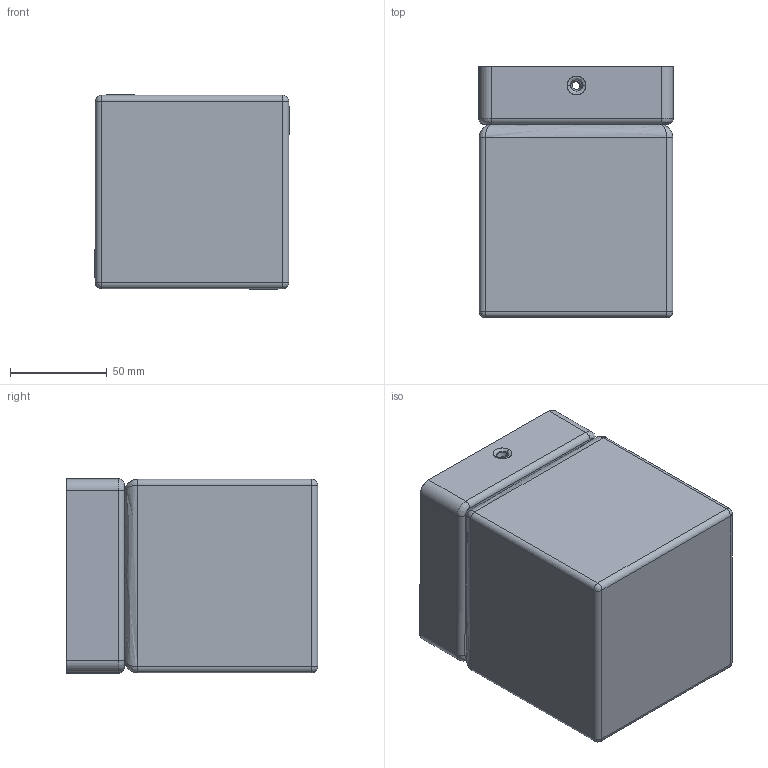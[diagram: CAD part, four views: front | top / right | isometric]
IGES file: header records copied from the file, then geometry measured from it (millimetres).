
Start section: SolidWorks IGES file using analytic representation for surfaces
Global section: file name: Z:\Modele 3D_WWW\_KOLEKCJE_WWW\SIS-9506-8054\SIS-9506-8054.IGS; native system: SolidWorks 2021; preprocessor: SolidWorks 2021; author: gabriela.tworek; date: 210716.101240; units: millimetre
Bounding box: 100.45 x 130 x 100.45 mm (x, y, z)
Surface area: 142430.6 mm2 (no closed solid volume)
Topology: 0 solids, 0 shells, 155 faces, 1782 edges, 1773 vertices
Faces by surface type: revolution 80, bspline 75
